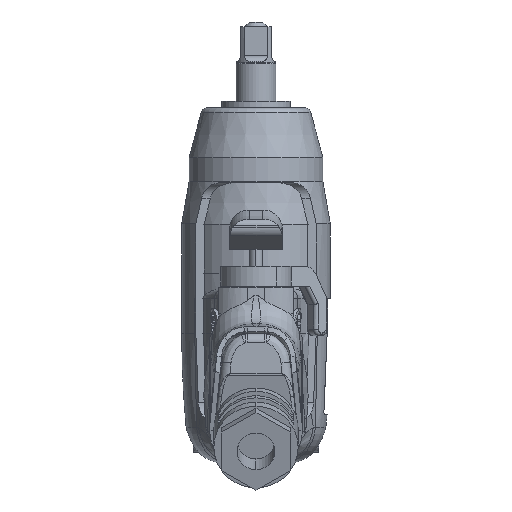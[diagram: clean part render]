
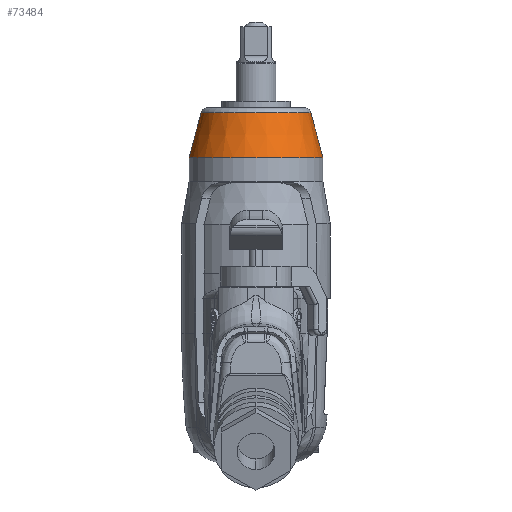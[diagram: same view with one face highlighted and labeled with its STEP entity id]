
A CAD part, front view. The second image highlights one B-rep face of the part: STEP entity #73484.
In plain terms, the highlighted conical face has half-angle 15 degrees and reference radius 16.221 mm.
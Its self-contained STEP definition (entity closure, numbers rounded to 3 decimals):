
#42497 = DIRECTION ( 'NONE',  ( 1., 0., 0. ) ) ;
#42498 = DIRECTION ( 'NONE',  ( 0., 0., 1. ) ) ;
#42499 = CARTESIAN_POINT ( 'NONE',  ( 0., 0., -30.337 ) ) ;
#42500 = AXIS2_PLACEMENT_3D ( 'NONE', #42499, #42498, #42497 ) ;
#42501 = CIRCLE ( 'NONE', #42500, 20.25 ) ;
#42556 = DIRECTION ( 'NONE',  ( -1., 0., 0. ) ) ;
#42557 = DIRECTION ( 'NONE',  ( 0., 0., -1. ) ) ;
#42558 = AXIS2_PLACEMENT_3D ( 'NONE', #42561, #42557, #42556 ) ;
#42559 = CONICAL_SURFACE ( 'NONE', #42558, 16.221, 0.262 ) ;
#42561 = CARTESIAN_POINT ( 'NONE',  ( 0., 0., -15.3 ) ) ;
#42567 = FACE_OUTER_BOUND ( 'NONE', #73520, .T. ) ;
#58465 = CARTESIAN_POINT ( 'NONE',  ( 16.618, 0., -16.782 ) ) ;
#58466 = DIRECTION ( 'NONE',  ( 1., 0., 0. ) ) ;
#58467 = DIRECTION ( 'NONE',  ( 0., 0., -1. ) ) ;
#58468 = CARTESIAN_POINT ( 'NONE',  ( 0., 0., -16.782 ) ) ;
#58469 = AXIS2_PLACEMENT_3D ( 'NONE', #58468, #58467, #58466 ) ;
#58470 = CIRCLE ( 'NONE', #58469, 16.618 ) ;
#58501 = CARTESIAN_POINT ( 'NONE',  ( -16.618, 0., -16.782 ) ) ;
#59038 = CARTESIAN_POINT ( 'NONE',  ( 20.25, 0., -30.337 ) ) ;
#59044 = CARTESIAN_POINT ( 'NONE',  ( -20.25, 0., -30.337 ) ) ;
#59189 = DIRECTION ( 'NONE',  ( -0.259, 0., -0.966 ) ) ;
#59190 = VECTOR ( 'NONE', #59189, 1000. ) ;
#59191 = CARTESIAN_POINT ( 'NONE',  ( -16.221, 0., -15.3 ) ) ;
#59192 = LINE ( 'NONE', #59191, #59190 ) ;
#59193 = DIRECTION ( 'NONE',  ( 0.259, 0., -0.966 ) ) ;
#59194 = VECTOR ( 'NONE', #59193, 1000. ) ;
#59195 = CARTESIAN_POINT ( 'NONE',  ( 16.221, 0., -15.3 ) ) ;
#59201 = LINE ( 'NONE', #59195, #59194 ) ;
#73447 = EDGE_CURVE ( 'NONE', #78624, #78627, #42501, .T. ) ;
#73484 = ADVANCED_FACE ( 'NONE', ( #42567 ), #42559, .T. ) ;
#73520 = EDGE_LOOP ( 'NONE', ( #73523, #73525, #73527, #73529 ) ) ;
#73523 = ORIENTED_EDGE ( 'NONE', *, *, #78695, .F. ) ;
#73525 = ORIENTED_EDGE ( 'NONE', *, *, #78375, .T. ) ;
#73527 = ORIENTED_EDGE ( 'NONE', *, *, #78698, .T. ) ;
#73529 = ORIENTED_EDGE ( 'NONE', *, *, #73447, .T. ) ;
#78375 = EDGE_CURVE ( 'NONE', #78376, #78389, #58470, .T. ) ;
#78376 = VERTEX_POINT ( 'NONE', #58465 ) ;
#78389 = VERTEX_POINT ( 'NONE', #58501 ) ;
#78624 = VERTEX_POINT ( 'NONE', #59044 ) ;
#78627 = VERTEX_POINT ( 'NONE', #59038 ) ;
#78695 = EDGE_CURVE ( 'NONE', #78376, #78627, #59201, .T. ) ;
#78698 = EDGE_CURVE ( 'NONE', #78389, #78624, #59192, .T. ) ;
